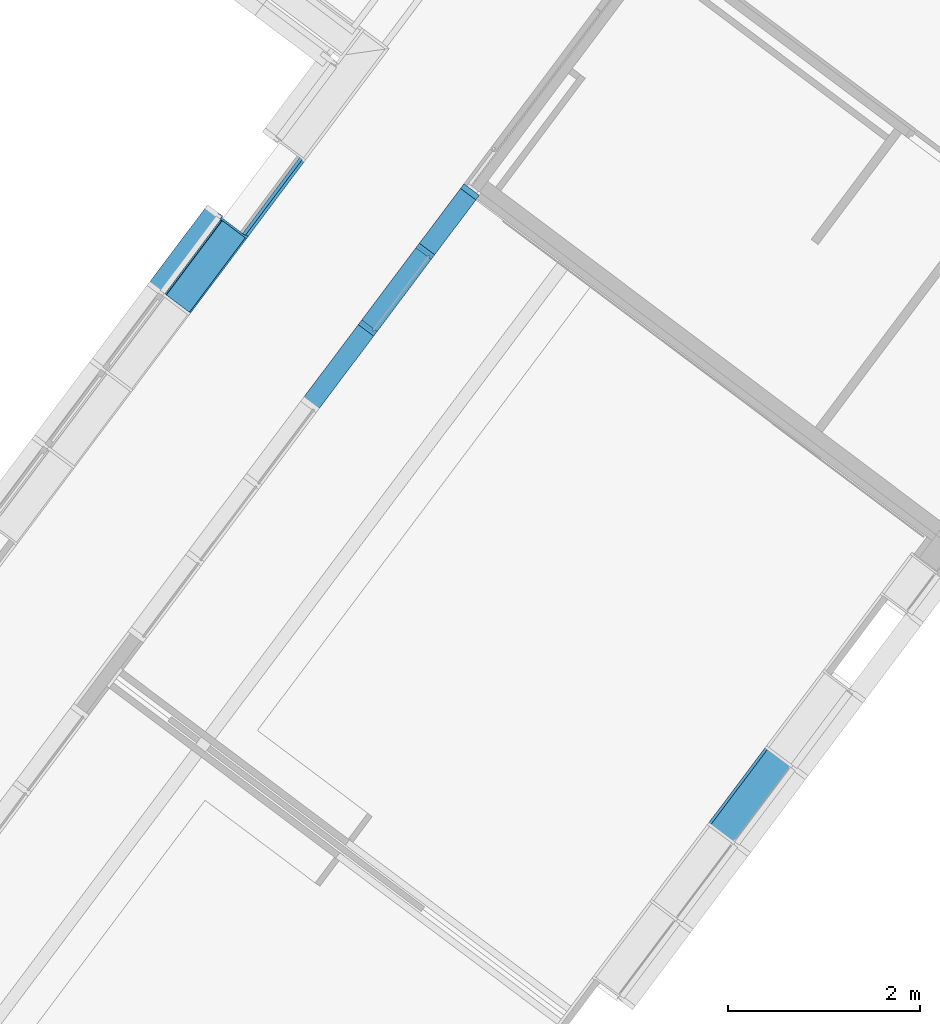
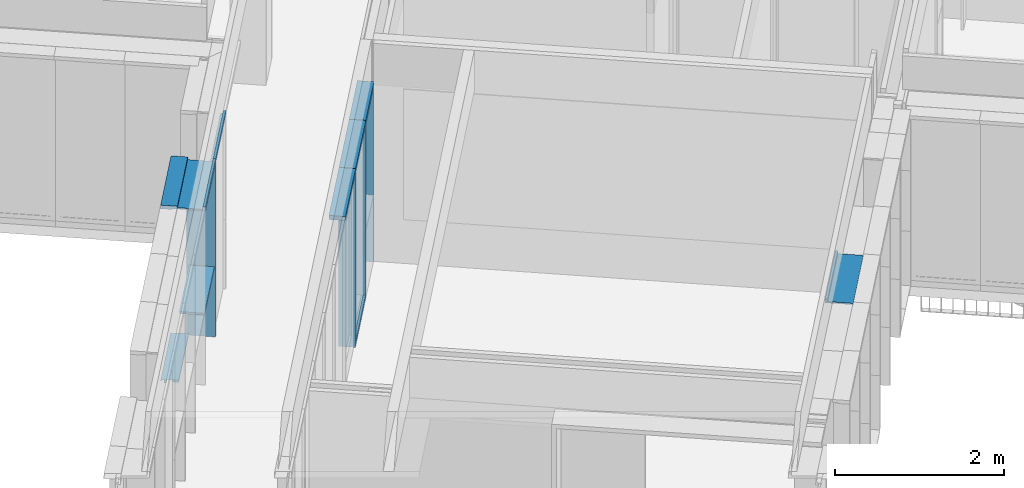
# One storey, part 52 of 243: 15 members, 4 elements without a shape of their own.
"""IFC2X3 building model written with IfcOpenShell, lengths in metres."""

from ifc_helpers import new_model, entity, si_unit, converted_unit, derived_unit, direction, frame, frame_2d, origin, place, context, subcontext, project, spatial, polyline, circle_curve, parameter, trimmed, segment, composite_curve, rectangle, outline, extrude, source, transform, mapped, material, type_object, type_shapes, element, aggregate, save


model = new_model("IFC2X3")

# Units and contexts
model_context = context("Model", 3, precision=1e-05, world=origin(), true_north=direction((6.123031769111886e-17, 1.0)))
body_context = subcontext(model_context, "Body", "Model", "MODEL_VIEW")
ifc_project = project(units=[si_unit("LENGTHUNIT", "METRE"), si_unit("AREAUNIT", "SQUARE_METRE"), si_unit("VOLUMEUNIT", "CUBIC_METRE"), converted_unit("PLANEANGLEUNIT", "DEGREE", entity("IfcRatioMeasure", 0.017453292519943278), si_unit("PLANEANGLEUNIT", "RADIAN"), dimensions=[0, 0, 0, 0, 0, 0, 0]), si_unit("MASSUNIT", "GRAM", prefix="KILO"), derived_unit("MASSDENSITYUNIT", [(si_unit("MASSUNIT", "GRAM", prefix="KILO"), 1), (si_unit("LENGTHUNIT", "METRE"), -3)]), derived_unit("IONCONCENTRATIONUNIT", [(si_unit("MASSUNIT", "GRAM", prefix="KILO"), 1), (si_unit("LENGTHUNIT", "METRE"), -3)]), derived_unit("MOMENTOFINERTIAUNIT", [(si_unit("LENGTHUNIT", "METRE"), 4)]), si_unit("TIMEUNIT", "SECOND"), si_unit("FREQUENCYUNIT", "HERTZ"), si_unit("THERMODYNAMICTEMPERATUREUNIT", "DEGREE_CELSIUS"), derived_unit("THERMALTRANSMITTANCEUNIT", [(si_unit("MASSUNIT", "GRAM", prefix="KILO"), 1), (si_unit("THERMODYNAMICTEMPERATUREUNIT", "KELVIN"), -1), (si_unit("TIMEUNIT", "SECOND"), -3)]), derived_unit("THERMALCONDUCTANCEUNIT", [(si_unit("MASSUNIT", "GRAM", prefix="KILO"), 1), (si_unit("THERMODYNAMICTEMPERATUREUNIT", "KELVIN"), -1), (si_unit("TIMEUNIT", "SECOND"), -3), (si_unit("LENGTHUNIT", "METRE"), 1)]), derived_unit("VOLUMETRICFLOWRATEUNIT", [(si_unit("LENGTHUNIT", "METRE"), 3), (si_unit("TIMEUNIT", "SECOND"), -1)]), derived_unit("MASSFLOWRATEUNIT", [(si_unit("MASSUNIT", "GRAM", prefix="KILO"), 1), (si_unit("TIMEUNIT", "SECOND"), -1)]), derived_unit("ROTATIONALFREQUENCYUNIT", [(si_unit("TIMEUNIT", "SECOND"), -1)]), si_unit("ELECTRICCURRENTUNIT", "AMPERE"), si_unit("ELECTRICVOLTAGEUNIT", "VOLT"), si_unit("POWERUNIT", "WATT"), si_unit("FORCEUNIT", "NEWTON", prefix="KILO"), si_unit("ILLUMINANCEUNIT", "LUX"), si_unit("LUMINOUSFLUXUNIT", "LUMEN"), si_unit("LUMINOUSINTENSITYUNIT", "CANDELA"), derived_unit("USERDEFINED", [(si_unit("MASSUNIT", "GRAM", prefix="KILO"), -1), (si_unit("LENGTHUNIT", "METRE"), -2), (si_unit("TIMEUNIT", "SECOND"), 3), (si_unit("LUMINOUSFLUXUNIT", "LUMEN"), 1)]), derived_unit("USERDEFINED", [(si_unit("MASSUNIT", "GRAM", prefix="KILO"), 1), (si_unit("TIMEUNIT", "SECOND"), -3), (si_unit("LENGTHUNIT", "METRE"), 3), (si_unit("ELECTRICCURRENTUNIT", "AMPERE"), -2)]), derived_unit("SOUNDPOWERUNIT", [(si_unit("MASSUNIT", "GRAM", prefix="KILO"), 1), (si_unit("TIMEUNIT", "SECOND"), -3), (si_unit("LENGTHUNIT", "METRE"), 2)]), derived_unit("SOUNDPRESSUREUNIT", [(si_unit("MASSUNIT", "GRAM", prefix="KILO"), 1), (si_unit("LENGTHUNIT", "METRE"), -1), (si_unit("TIMEUNIT", "SECOND"), -2)]), derived_unit("LINEARVELOCITYUNIT", [(si_unit("LENGTHUNIT", "METRE"), 1), (si_unit("TIMEUNIT", "SECOND"), -1)]), si_unit("PRESSUREUNIT", "PASCAL"), derived_unit("USERDEFINED", [(si_unit("MASSUNIT", "GRAM", prefix="KILO"), 1), (si_unit("LENGTHUNIT", "METRE"), -2), (si_unit("TIMEUNIT", "SECOND"), -2)]), derived_unit("LINEARFORCEUNIT", [(si_unit("MASSUNIT", "GRAM", prefix="KILO"), 1), (si_unit("TIMEUNIT", "SECOND"), -2)]), derived_unit("PLANARFORCEUNIT", [(si_unit("MASSUNIT", "GRAM", prefix="KILO"), 1), (si_unit("LENGTHUNIT", "METRE"), -1), (si_unit("TIMEUNIT", "SECOND"), -2)]), derived_unit("SPECIFICHEATCAPACITYUNIT", [(si_unit("THERMODYNAMICTEMPERATUREUNIT", "KELVIN"), -1), (si_unit("LENGTHUNIT", "METRE"), 2), (si_unit("TIMEUNIT", "SECOND"), -2)]), derived_unit("HEATINGVALUEUNIT", [(si_unit("LENGTHUNIT", "METRE"), 2), (si_unit("TIMEUNIT", "SECOND"), -2)]), derived_unit("VAPORPERMEABILITYUNIT", [(si_unit("LENGTHUNIT", "METRE"), -1), (si_unit("TIMEUNIT", "SECOND"), 1)]), derived_unit("DYNAMICVISCOSITYUNIT", [(si_unit("MASSUNIT", "GRAM", prefix="KILO"), 1), (si_unit("TIMEUNIT", "SECOND"), -1), (si_unit("LENGTHUNIT", "METRE"), -1)]), derived_unit("THERMALEXPANSIONCOEFFICIENTUNIT", [(si_unit("THERMODYNAMICTEMPERATUREUNIT", "KELVIN"), -1)]), derived_unit("MODULUSOFELASTICITYUNIT", [(si_unit("MASSUNIT", "GRAM", prefix="KILO"), 1), (si_unit("LENGTHUNIT", "METRE"), -1), (si_unit("TIMEUNIT", "SECOND"), -2)]), derived_unit("ISOTHERMALMOISTURECAPACITYUNIT", [(si_unit("LENGTHUNIT", "METRE"), 3), (si_unit("MASSUNIT", "GRAM", prefix="KILO"), -1)]), derived_unit("MOISTUREDIFFUSIVITYUNIT", [(si_unit("TIMEUNIT", "SECOND"), -1), (si_unit("LENGTHUNIT", "METRE"), 2)])], contexts=[model_context])

# Site, building, storey
site_placement = place(None, frame((0.0, 0.0, 235.0), z_axis=(0.0, 0.0, 1.0), x_axis=(-0.7996477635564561, 0.6004693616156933, 0.0)))
site = spatial("IfcSite", under=ifc_project, at=site_placement, Name="Default", CompositionType="ELEMENT")
building_placement = place(site_placement, origin())
building = spatial("IfcBuilding", under=site, at=building_placement, CompositionType="ELEMENT")
storey_placement = place(building_placement, origin())
storey = spatial("IfcBuildingStorey", under=building, at=storey_placement, Name="P0- Escola", CompositionType="ELEMENT", Elevation=0.0)

# Curtain wall, members
curtain_wall_type_1 = type_object("IfcCurtainWallType", Name="Muro cortina:MC- INT- a1", PredefinedType="NOTDEFINED")
curtain_wall_1_placement = place(storey_placement, origin())
curtain_wall_1 = element("IfcCurtainWall", 1, at=curtain_wall_1_placement, inside=storey, type_object=curtain_wall_type_1, Name="Muro cortina:MC- INT- a1", ObjectType="Muro cortina:MC- INT- a1")
ifc_material_1 = material(Name="_Fusta massisa- T1")
member_type_1 = type_object("IfcMemberType", Name="Montante rectangular:MC- Fusta- 20x6 cm- Neutre", PredefinedType="MULLION", material=ifc_material_1)
shared_shape_1 = source(origin(), body_context, "Body", "SweptSolid", [
    extrude(rectangle(XDim=0.2, YDim=0.060000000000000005, at=frame_2d((-4.85722573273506e-17, -3.469446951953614e-18), x_axis=(1.0, 0.0))), frame((-0.03, -0.060000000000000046, -0.8050000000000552), z_axis=(0.0, 0.0, 1.0), x_axis=(0.0, -1.0, 0.0)), (0.0, 0.0, 1.0), 0.8050000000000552),
])
type_shapes(member_type_1, [shared_shape_1])
member_1_placement = place(curtain_wall_1_placement, frame((60.020147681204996, -36.2201899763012, 2.565), z_axis=(0.0, -1.0, 0.0), x_axis=(0.0, 0.0, 1.0)))
member_1 = element("IfcMember", 2, at=member_1_placement, type_object=member_type_1, material=ifc_material_1, Name="Montante rectangular:MC- Fusta- 20x6 cm- Neutre", ObjectType="Montante rectangular:MC- Fusta- 20x6 cm- Neutre", context=body_context, shape_type="MappedRepresentation", body=[
    mapped(shared_shape_1, transform((0.0, 0.0, 0.0), scale=1.0)),
])
member_type_2 = type_object("IfcMemberType", Name="Montante rectangular:MC- Fusta- 20x6 cm- Neutre", PredefinedType="MULLION", material=ifc_material_1)
shared_shape_2 = source(origin(), body_context, "Body", "SweptSolid", [
    extrude(rectangle(XDim=0.2, YDim=0.060000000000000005, at=frame_2d((-4.85722573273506e-17, -3.469446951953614e-18), x_axis=(1.0, 0.0))), frame((-0.03, -0.060000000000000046, -2.5050000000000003), z_axis=(0.0, 0.0, 1.0), x_axis=(0.0, -1.0, 0.0)), (0.0, 0.0, 1.0), 2.5050000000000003),
])
type_shapes(member_type_2, [shared_shape_2])
member_2_placement = place(curtain_wall_1_placement, frame((60.020147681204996, -36.2201899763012, 0.0), z_axis=(0.0, 0.0, -1.0), x_axis=(0.0, -1.0, 0.0)))
member_2 = element("IfcMember", 3, at=member_2_placement, type_object=member_type_2, material=ifc_material_1, Name="Montante rectangular:MC- Fusta- 20x6 cm- Neutre", ObjectType="Montante rectangular:MC- Fusta- 20x6 cm- Neutre", context=body_context, shape_type="MappedRepresentation", body=[
    mapped(shared_shape_2, transform((0.0, 0.0, 0.0), scale=1.0)),
])
member_type_3 = type_object("IfcMemberType", Name="Montante rectangular:MC- Fusta- 20x6 cm- Esquerra", PredefinedType="MULLION", material=ifc_material_1)
shared_shape_3 = source(origin(), body_context, "Body", "SweptSolid", [
    extrude(outline(polyline([(-0.07000000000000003, -0.01875000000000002), (-0.04000000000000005, -0.01875000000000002), (-0.04000000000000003, -0.0037500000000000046), (-0.020000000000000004, -0.0037500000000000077), (-0.02, -0.018750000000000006), (0.13, -0.018749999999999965), (0.12999999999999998, 0.04125000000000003), (-0.06999999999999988, 0.04124999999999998), (-0.07000000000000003, -0.01875000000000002)])), frame((-0.041249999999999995, -0.03, -1.0), z_axis=(0.0, 0.0, 1.0), x_axis=(0.0, -1.0, 0.0)), (0.0, 0.0, 1.0), 0.9999999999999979),
])
type_shapes(member_type_3, [shared_shape_3])
member_3_placement = place(curtain_wall_1_placement, frame((60.020147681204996, -35.41518997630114, 2.565), z_axis=(0.0, -1.0, 0.0), x_axis=(0.0, 0.0, 1.0)))
member_3 = element("IfcMember", 4, at=member_3_placement, type_object=member_type_3, material=ifc_material_1, Name="Montante rectangular:MC- Fusta- 20x6 cm- Esquerra", ObjectType="Montante rectangular:MC- Fusta- 20x6 cm- Esquerra", context=body_context, shape_type="MappedRepresentation", body=[
    mapped(shared_shape_3, transform((0.0, 0.0, 0.0), scale=1.0)),
])
member_type_4 = type_object("IfcMemberType", Name="Montante rectangular:MC- Fusta- 20x6 cm- Esquerra", PredefinedType="MULLION", material=ifc_material_1)
shared_shape_4 = source(origin(), body_context, "Body", "SweptSolid", [
    extrude(outline(polyline([(-0.07000000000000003, -0.01875000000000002), (-0.04000000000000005, -0.01875000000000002), (-0.04000000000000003, -0.0037500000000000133), (-0.020000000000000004, -0.0037500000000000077), (-0.02, -0.018750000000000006), (0.13, -0.018749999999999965), (0.12999999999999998, 0.04125000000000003), (-0.06999999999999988, 0.04124999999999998), (-0.07000000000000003, -0.01875000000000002)])), frame((-0.01124999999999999, -0.03, -2.5050000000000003), z_axis=(0.0, 0.0, 1.0), x_axis=(0.0, -1.0, 0.0)), (0.0, 0.0, 1.0), 2.5050000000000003),
])
type_shapes(member_type_4, [shared_shape_4])
member_4_placement = place(curtain_wall_1_placement, frame((60.020147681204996, -35.41518997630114, 0.0), z_axis=(0.0, 0.0, -1.0), x_axis=(0.0, -1.0, 0.0)))
member_4 = element("IfcMember", 5, at=member_4_placement, type_object=member_type_4, material=ifc_material_1, Name="Montante rectangular:MC- Fusta- 20x6 cm- Esquerra", ObjectType="Montante rectangular:MC- Fusta- 20x6 cm- Esquerra", context=body_context, shape_type="MappedRepresentation", body=[
    mapped(shared_shape_4, transform((0.0, 0.0, 0.0), scale=1.0)),
])
member_type_5 = type_object("IfcMemberType", Name="Montante rectangular:MC- Fusta- 20x6 cm- Neutre", PredefinedType="MULLION", material=ifc_material_1)
shared_shape_5 = source(origin(), body_context, "Body", "SweptSolid", [
    extrude(rectangle(XDim=0.2, YDim=0.060000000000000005, at=frame_2d((-4.85722573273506e-17, -3.469446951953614e-18), x_axis=(1.0, 0.0))), frame((-0.03, -0.060000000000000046, -1.0), z_axis=(0.0, 0.0, 1.0), x_axis=(0.0, -1.0, 0.0)), (0.0, 0.0, 1.0), 0.9999999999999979),
])
type_shapes(member_type_5, [shared_shape_5])
member_5_placement = place(curtain_wall_1_placement, frame((60.020147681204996, -34.41518997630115, 2.565), z_axis=(0.0, -1.0, 0.0), x_axis=(0.0, 0.0, 1.0)))
member_5 = element("IfcMember", 6, at=member_5_placement, type_object=member_type_5, material=ifc_material_1, Name="Montante rectangular:MC- Fusta- 20x6 cm- Neutre", ObjectType="Montante rectangular:MC- Fusta- 20x6 cm- Neutre", context=body_context, shape_type="MappedRepresentation", body=[
    mapped(shared_shape_5, transform((0.0, 0.0, 0.0), scale=1.0)),
])
member_type_6 = type_object("IfcMemberType", Name="Montante rectangular:MC- Fusta- 20x6 cm- Dreta", PredefinedType="MULLION", material=ifc_material_1)
shared_shape_6 = source(origin(), body_context, "Body", "SweptSolid", [
    extrude(outline(polyline([(-0.07000000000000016, -0.041249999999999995), (0.13000000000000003, -0.041249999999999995), (0.13000000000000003, 0.01875), (-0.019999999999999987, 0.01875), (-0.019999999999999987, 0.00375), (-0.04000000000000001, 0.00375), (-0.03999999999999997, 0.01875), (-0.06999999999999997, 0.01875), (-0.07000000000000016, -0.041249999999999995)])), frame((0.011250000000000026, -0.02999999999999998, -2.5050000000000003), z_axis=(0.0, 0.0, 1.0), x_axis=(0.0, -1.0, 0.0)), (0.0, 0.0, 1.0), 2.5050000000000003),
])
type_shapes(member_type_6, [shared_shape_6])
member_6_placement = place(curtain_wall_1_placement, frame((60.020147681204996, -34.41518997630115, 0.0), z_axis=(0.0, 0.0, -1.0), x_axis=(0.0, -1.0, 0.0)))
member_6 = element("IfcMember", 7, at=member_6_placement, type_object=member_type_6, material=ifc_material_1, Name="Montante rectangular:MC- Fusta- 20x6 cm- Dreta", ObjectType="Montante rectangular:MC- Fusta- 20x6 cm- Dreta", context=body_context, shape_type="MappedRepresentation", body=[
    mapped(shared_shape_6, transform((0.0, 0.0, 0.0), scale=1.0)),
])
member_type_7 = type_object("IfcMemberType", Name="Montante rectangular:MC- Fusta- 20x6 cm- Inferior", PredefinedType="MULLION", material=ifc_material_1)
shared_shape_7 = source(origin(), body_context, "Body", "SweptSolid", [
    extrude(outline(polyline([(-0.06999999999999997, -0.018750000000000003), (-0.039999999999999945, -0.018750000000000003), (-0.03999999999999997, -0.003750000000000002), (-0.019999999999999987, -0.0037500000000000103), (-0.019999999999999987, -0.018750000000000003), (0.13000000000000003, -0.018750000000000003), (0.13000000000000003, 0.041249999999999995), (-0.07000000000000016, 0.041249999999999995), (-0.06999999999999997, -0.018750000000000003)])), frame((-0.041249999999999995, -0.02999999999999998, -0.9399999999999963), z_axis=(0.0, 0.0, 1.0), x_axis=(0.0, -1.0, 0.0)), (0.0, 0.0, 1.0), 0.9399999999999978),
])
type_shapes(member_type_7, [shared_shape_7])
member_7_placement = place(curtain_wall_1_placement, frame((60.020147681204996, -34.44518997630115, 0.0), z_axis=(0.0, 1.0, 0.0), x_axis=(0.0, 0.0, -1.0)))
member_7 = element("IfcMember", 8, at=member_7_placement, type_object=member_type_7, material=ifc_material_1, Name="Montante rectangular:MC- Fusta- 20x6 cm- Inferior", ObjectType="Montante rectangular:MC- Fusta- 20x6 cm- Inferior", context=body_context, shape_type="MappedRepresentation", body=[
    mapped(shared_shape_7, transform((0.0, 0.0, 0.0), scale=1.0)),
])
aggregate(curtain_wall_1, [member_1, member_2, member_3, member_4, member_5, member_6, member_7])

# Curtain wall, member
curtain_wall_type_2 = type_object("IfcCurtainWallType", Name="Muro cortina:MC- INT- k7- Aules infantil", PredefinedType="NOTDEFINED")
curtain_wall_2_placement = place(storey_placement, origin())
curtain_wall_2 = element("IfcCurtainWall", 9, at=curtain_wall_2_placement, inside=storey, type_object=curtain_wall_type_2, Name="Muro cortina:MC- INT- k7- Aules infantil", ObjectType="Muro cortina:MC- INT- k7- Aules infantil")
member_type_8 = type_object("IfcMemberType", Name="Montante rectangular:MC- Fusta- 35x3 cm- Pati aules- Remat superior", PredefinedType="MULLION", material=ifc_material_1)
shared_shape_8 = source(origin(), body_context, "Body", "SweptSolid", [
    extrude(outline(polyline([(-0.21333333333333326, -0.02666666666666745), (0.1216666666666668, -0.02666666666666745), (0.12166666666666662, 0.03333333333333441), (0.09166666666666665, 0.03333333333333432), (0.09166666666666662, -0.006666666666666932), (-0.2133333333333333, -0.006666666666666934), (-0.21333333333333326, -0.02666666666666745)])), frame((-0.033333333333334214, 0.026666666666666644, -1.0), z_axis=(0.0, 0.0, 1.0), x_axis=(0.0, -1.0, 0.0)), (0.0, 0.0, 1.0), 0.9999999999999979),
])
type_shapes(member_type_8, [shared_shape_8])
member_8_placement = place(curtain_wall_2_placement, frame((54.045147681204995, -33.41519175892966, 2.565), z_axis=(0.0, -1.0, 0.0), x_axis=(0.0, 0.0, 1.0)))
member_8 = element("IfcMember", 10, at=member_8_placement, type_object=member_type_8, material=ifc_material_1, Name="Montante rectangular:MC- Fusta- 35x3 cm- Pati aules- Remat superior", ObjectType="Montante rectangular:MC- Fusta- 35x3 cm- Pati aules- Remat superior", context=body_context, shape_type="MappedRepresentation", body=[
    mapped(shared_shape_8, transform((0.0, 0.0, 0.0), scale=1.0)),
])
aggregate(curtain_wall_2, [member_8])

# Curtain wall, members
curtain_wall_type_3 = type_object("IfcCurtainWallType", Name="Muro cortina:MC- INT- k2", PredefinedType="NOTDEFINED")
curtain_wall_3_placement = place(storey_placement, origin())
curtain_wall_3 = element("IfcCurtainWall", 11, at=curtain_wall_3_placement, inside=storey, type_object=curtain_wall_type_3, Name="Muro cortina:MC- INT- k2", ObjectType="Muro cortina:MC- INT- k2")
member_type_9 = type_object("IfcMemberType", Name="Montante rectangular:MC- Fusta- 35x3 cm- Pati aules- Remat superior", PredefinedType="MULLION", material=ifc_material_1)
shared_shape_9 = source(origin(), body_context, "Body", "SweptSolid", [
    extrude(outline(polyline([(-0.12166666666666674, -0.02666666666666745), (0.21333333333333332, -0.02666666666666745), (0.2133333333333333, -0.006666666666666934), (-0.09166666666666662, -0.006666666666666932), (-0.09166666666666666, 0.03333333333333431), (-0.12166666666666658, 0.03333333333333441), (-0.12166666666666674, -0.02666666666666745)])), frame((-0.033333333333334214, -0.026666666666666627, -1.0), z_axis=(0.0, 0.0, 1.0), x_axis=(0.0, -1.0, 0.0)), (0.0, 0.0, 1.0), 0.9999999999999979),
])
type_shapes(member_type_9, [shared_shape_9])
member_9_placement = place(curtain_wall_3_placement, frame((61.745147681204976, -34.41519175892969, 2.565), z_axis=(0.0, -1.0, 0.0), x_axis=(0.0, 0.0, 1.0)))
member_9 = element("IfcMember", 12, at=member_9_placement, type_object=member_type_9, material=ifc_material_1, Name="Montante rectangular:MC- Fusta- 35x3 cm- Pati aules- Remat superior", ObjectType="Montante rectangular:MC- Fusta- 35x3 cm- Pati aules- Remat superior", context=body_context, shape_type="MappedRepresentation", body=[
    mapped(shared_shape_9, transform((0.0, 0.0, 0.0), scale=1.0)),
])
member_type_10 = type_object("IfcMemberType", Name="Montante rectangular:MC- Fusta- 35x3 cm- Pati aules- Remat dreta", PredefinedType="MULLION", material=ifc_material_1)
shared_shape_10 = source(origin(), body_context, "Body", "SweptSolid", [
    extrude(outline(polyline([(-0.12500000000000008, -0.01666666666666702), (0.22, -0.01666666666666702), (0.22000000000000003, 0.003333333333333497), (-0.09499999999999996, 0.003333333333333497), (-0.09499999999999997, 0.013333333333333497), (-0.12500000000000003, 0.013333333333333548), (-0.12500000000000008, -0.01666666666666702)])), frame((0.00166666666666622, -0.03000000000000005, -1.0), z_axis=(0.0, 0.0, 1.0), x_axis=(0.0, -1.0, 0.0)), (0.0, 0.0, 1.0), 1.0),
])
type_shapes(member_type_10, [shared_shape_10])
member_10_placement = place(curtain_wall_3_placement, frame((61.745147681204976, -34.41519175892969, 0.0), z_axis=(0.0, 0.0, -1.0), x_axis=(0.0, -1.0, 0.0)))
member_10 = element("IfcMember", 13, at=member_10_placement, type_object=member_type_10, material=ifc_material_1, Name="Montante rectangular:MC- Fusta- 35x3 cm- Pati aules- Remat dreta", ObjectType="Montante rectangular:MC- Fusta- 35x3 cm- Pati aules- Remat dreta", context=body_context, shape_type="MappedRepresentation", body=[
    mapped(shared_shape_10, transform((0.0, 0.0, 0.0), scale=1.0)),
])
member_type_11 = type_object("IfcMemberType", Name="Montante rectangular:MC- Fusta- 35x3 cm- Pati aules- Remat superior pilar", PredefinedType="MULLION", material=ifc_material_1)
shared_shape_11 = source(origin(), body_context, "Body", "SweptSolid", [
    extrude(outline(polyline([(-0.03166666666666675, -0.02666666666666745), (0.03333333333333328, -0.02666666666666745), (0.03333333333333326, -0.00666666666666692), (-0.0016666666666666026, -0.006666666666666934), (-0.0016666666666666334, 0.03333333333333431), (-0.03166666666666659, 0.03333333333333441), (-0.03166666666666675, -0.02666666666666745)])), frame((-0.03333333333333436, 0.06333333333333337, -1.0), z_axis=(0.0, 0.0, 1.0), x_axis=(0.0, -1.0, 0.0)), (0.0, 0.0, 1.0), 0.9999999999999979),
])
type_shapes(member_type_11, [shared_shape_11])
member_11_placement = place(curtain_wall_3_placement, frame((61.74514768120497, -35.41519175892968, 2.565), z_axis=(0.0, -1.0, 0.0), x_axis=(0.0, 0.0, 1.0)))
member_11 = element("IfcMember", 14, at=member_11_placement, type_object=member_type_11, material=ifc_material_1, Name="Montante rectangular:MC- Fusta- 35x3 cm- Pati aules- Remat superior pilar", ObjectType="Montante rectangular:MC- Fusta- 35x3 cm- Pati aules- Remat superior pilar", context=body_context, shape_type="MappedRepresentation", body=[
    mapped(shared_shape_11, transform((0.0, 0.0, 0.0), scale=1.0)),
])
member_type_12 = type_object("IfcMemberType", Name="Montante rectangular:MC- Fusta- 35x3 cm- Pati aules- Prestatge", PredefinedType="MULLION", material=ifc_material_1)
shared_shape_12 = source(origin(), body_context, "Body", "SweptSolid", [
    extrude(rectangle(XDim=0.30000000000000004, YDim=0.03000000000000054, at=frame_2d((0.0, -1.231653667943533e-16), x_axis=(1.0, 0.0))), frame((0.0, -0.07000000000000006, -0.9699999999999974), z_axis=(0.0, 0.0, 1.0), x_axis=(0.0, -1.0, 0.0)), (0.0, 0.0, 1.0), 0.969999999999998),
])
type_shapes(member_type_12, [shared_shape_12])
member_12_placement = place(curtain_wall_3_placement, frame((61.745147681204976, -34.40019175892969, 1.0), z_axis=(0.0, -1.0, 0.0), x_axis=(0.0, 0.0, 1.0)))
member_12 = element("IfcMember", 15, at=member_12_placement, type_object=member_type_12, material=ifc_material_1, Name="Montante rectangular:MC- Fusta- 35x3 cm- Pati aules- Prestatge", ObjectType="Montante rectangular:MC- Fusta- 35x3 cm- Pati aules- Prestatge", context=body_context, shape_type="MappedRepresentation", body=[
    mapped(shared_shape_12, transform((0.0, 0.0, 0.0), scale=1.0)),
])
member_type_13 = type_object("IfcMemberType", Name="Montante rectangular:MC- Fusta- 35x3 cm- Pati aules- Remat dreta", PredefinedType="MULLION", material=ifc_material_1)
shared_shape_13 = source(origin(), body_context, "Body", "SweptSolid", [
    extrude(outline(polyline([(-0.12500000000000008, -0.01666666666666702), (0.22, -0.01666666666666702), (0.22000000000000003, 0.003333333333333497), (-0.09499999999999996, 0.003333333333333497), (-0.09499999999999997, 0.013333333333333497), (-0.12500000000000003, 0.013333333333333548), (-0.12500000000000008, -0.01666666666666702)])), frame((0.00166666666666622, -0.03000000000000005, -1.504999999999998), z_axis=(0.0, 0.0, 1.0), x_axis=(0.0, -1.0, 0.0)), (0.0, 0.0, 1.0), 1.504999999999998),
])
type_shapes(member_type_13, [shared_shape_13])
member_13_placement = place(curtain_wall_3_placement, frame((61.745147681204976, -34.41519175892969, 1.0), z_axis=(0.0, 0.0, -1.0), x_axis=(0.0, -1.0, 0.0)))
member_13 = element("IfcMember", 16, at=member_13_placement, type_object=member_type_13, material=ifc_material_1, Name="Montante rectangular:MC- Fusta- 35x3 cm- Pati aules- Remat dreta", ObjectType="Montante rectangular:MC- Fusta- 35x3 cm- Pati aules- Remat dreta", context=body_context, shape_type="MappedRepresentation", body=[
    mapped(shared_shape_13, transform((0.0, 0.0, 0.0), scale=1.0)),
])
aggregate(curtain_wall_3, [member_9, member_10, member_11, member_12, member_13])

curtain_wall_type_4 = type_object("IfcCurtainWallType", Name="Muro cortina:MC- EXT- MC5", PredefinedType="NOTDEFINED")
curtain_wall_4_placement = place(storey_placement, origin())
curtain_wall_4 = element("IfcCurtainWall", 17, at=curtain_wall_4_placement, inside=storey, type_object=curtain_wall_type_4, Name="Muro cortina:MC- EXT- MC5", ObjectType="Muro cortina:MC- EXT- MC5")
ifc_material_2 = material(Name="_Alumini- T1- Perfil")
member_type_14 = type_object("IfcMemberType", Name="Montante rectangular:MC- Alu- 140x52,5 cm- Fa patis- inferior", PredefinedType="MULLION", material=ifc_material_2)
shared_shape_14 = source(origin(), body_context, "Body", "SweptSolid", [
    extrude(outline(composite_curve([segment(polyline([(-0.144167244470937, -0.025867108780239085), (-0.12786724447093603, -0.02586710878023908)]), True, "CONTINUOUS"), segment(polyline([(-0.12786724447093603, -0.02586710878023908), (-0.12786724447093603, -0.023167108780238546)]), True, "CONTINUOUS"), segment(polyline([(-0.12786724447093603, -0.023167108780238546), (-0.0678672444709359, -0.023167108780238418)]), True, "CONTINUOUS"), segment(polyline([(-0.0678672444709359, -0.023167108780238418), (0.07031215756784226, -0.010722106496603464)]), True, "CONTINUOUS"), segment(trimmed(circle_curve(frame_2d((0.07013275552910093, -0.008730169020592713), x_axis=(0.0897010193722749, -0.9959687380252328)), 0.0019999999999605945), [parameter(0.0)], [parameter(84.8535928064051)], True, "PARAMETER"), True, "CONTINUOUS"), segment(polyline([(0.07213275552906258, -0.008730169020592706), (0.07213275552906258, 0.006266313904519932)]), True, "CONTINUOUS"), segment(trimmed(circle_curve(frame_2d((0.07013275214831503, 0.006266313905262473), x_axis=(1.0, 0.0)), 0.0020000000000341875), [parameter(0.0)], [parameter(90.00000002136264)], True, "PARAMETER"), True, "CONTINUOUS"), segment(polyline([(0.070132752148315, 0.008266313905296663), (0.06213275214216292, 0.008266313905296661)]), True, "CONTINUOUS"), segment(polyline([(0.06213275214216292, 0.008266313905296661), (0.06213275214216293, 0.006266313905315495)]), True, "CONTINUOUS"), segment(polyline([(0.06213275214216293, 0.006266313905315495), (0.06963275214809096, 0.006266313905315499)]), True, "CONTINUOUS"), segment(trimmed(circle_curve(frame_2d((0.06963275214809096, 0.005766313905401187), x_axis=(0.0, 1.0)), 0.0004999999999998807), [parameter(269.9999999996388)], [parameter(0.0)], True, "PARAMETER"), False, "CONTINUOUS"), segment(polyline([(0.07013275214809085, 0.005766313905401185), (0.07013275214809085, -0.008730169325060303)]), True, "CONTINUOUS"), segment(polyline([(0.07013275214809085, -0.008730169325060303), (0.03213275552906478, -0.012152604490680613)]), True, "CONTINUOUS"), segment(polyline([(0.03213275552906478, -0.0121526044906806), (0.03213275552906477, 0.029132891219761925)]), True, "CONTINUOUS"), segment(polyline([(0.03213275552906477, 0.029132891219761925), (0.0021327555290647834, 0.029132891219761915)]), True, "CONTINUOUS"), segment(polyline([(0.0021327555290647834, 0.029132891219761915), (0.0021327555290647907, 0.02713289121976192)]), True, "CONTINUOUS"), segment(polyline([(0.0021327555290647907, 0.02713289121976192), (0.03013275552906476, 0.02713289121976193)]), True, "CONTINUOUS"), segment(polyline([(0.03013275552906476, 0.027132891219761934), (0.03013275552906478, -0.012332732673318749)]), True, "CONTINUOUS"), segment(polyline([(0.03013275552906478, -0.012332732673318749), (-0.06786724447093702, -0.021159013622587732)]), True, "CONTINUOUS"), segment(polyline([(-0.06786724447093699, -0.02115901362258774), (-0.067867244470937, 0.009132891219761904)]), True, "CONTINUOUS"), segment(polyline([(-0.06786724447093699, 0.009132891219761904), (-0.14416724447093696, 0.009132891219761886)]), True, "CONTINUOUS"), segment(polyline([(-0.14416724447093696, 0.009132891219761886), (-0.144167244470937, -0.025867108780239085)]), True, "CONTINUOUS")], self_intersect=False)), frame((-0.029132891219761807, -0.06786724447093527, -0.9737499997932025), z_axis=(0.0, 0.0, 1.0), x_axis=(0.0, -1.0, 0.0)), (0.0, 0.0, 1.0), 0.9737499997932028),
])
type_shapes(member_type_14, [shared_shape_14])
member_14_placement = place(curtain_wall_4_placement, frame((62.045147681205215, -33.41519175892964, -0.02), z_axis=(0.0, 1.0, 0.0), x_axis=(0.0, 0.0, -1.0)))
member_14 = element("IfcMember", 18, at=member_14_placement, type_object=member_type_14, material=ifc_material_2, Name="Montante rectangular:MC- Alu- 140x52,5 cm- Fa patis- inferior", ObjectType="Montante rectangular:MC- Alu- 140x52,5 cm- Fa patis- inferior", context=body_context, shape_type="MappedRepresentation", body=[
    mapped(shared_shape_14, transform((0.0, 0.0, 0.0), scale=1.0)),
])
member_type_15 = type_object("IfcMemberType", Name="Montante rectangular:MC- Alu- 140x52,5 cm- Fa patis- Superior", PredefinedType="MULLION", material=ifc_material_2)
shared_shape_15 = source(origin(), body_context, "Body", "SweptSolid", [
    extrude(outline(polyline([(-0.026333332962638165, -0.021249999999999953), (0.11366666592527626, -0.021249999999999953), (0.11366666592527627, 0.031250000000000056), (-0.08733333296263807, 0.03125000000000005), (-0.0873333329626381, -0.010000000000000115), (-0.026333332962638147, -0.010000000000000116), (-0.026333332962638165, -0.021249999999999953)])), frame((-0.031250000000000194, -0.02733333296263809, -1.0262500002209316), z_axis=(0.0, 0.0, 1.0), x_axis=(0.0, -1.0, 0.0)), (0.0, 0.0, 1.0), 1.0262500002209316),
])
type_shapes(member_type_15, [shared_shape_15])
member_15_placement = place(curtain_wall_4_placement, frame((62.04514768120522, -34.44144175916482, 2.545), z_axis=(0.0, -1.0, 0.0), x_axis=(0.0, 0.0, 1.0)))
member_15 = element("IfcMember", 19, at=member_15_placement, type_object=member_type_15, material=ifc_material_2, Name="Montante rectangular:MC- Alu- 140x52,5 cm- Fa patis- Superior", ObjectType="Montante rectangular:MC- Alu- 140x52,5 cm- Fa patis- Superior", context=body_context, shape_type="MappedRepresentation", body=[
    mapped(shared_shape_15, transform((0.0, 0.0, 0.0), scale=1.0)),
])
aggregate(curtain_wall_4, [member_14, member_15])

save(model, "model.ifc")
